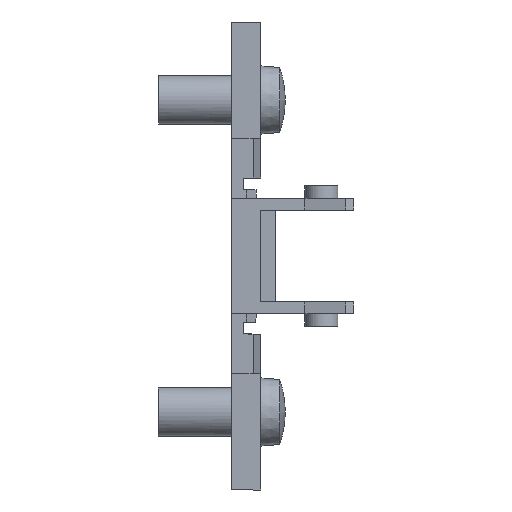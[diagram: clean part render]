
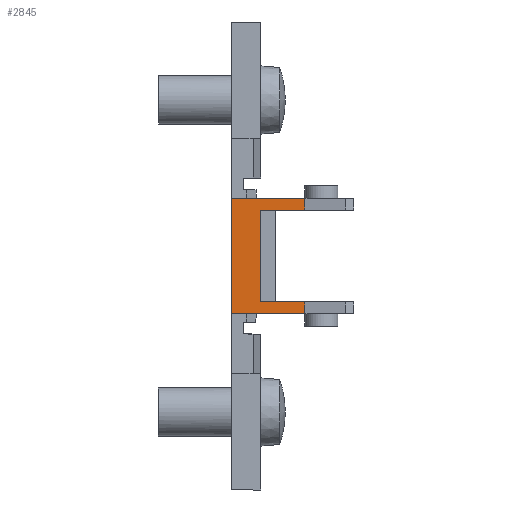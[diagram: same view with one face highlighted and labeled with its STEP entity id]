
A CAD part, front view. The second image highlights one B-rep face of the part: STEP entity #2845.
In plain terms, the highlighted planar face has unit normal (0, -1, 0).
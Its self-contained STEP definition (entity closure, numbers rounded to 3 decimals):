
#51 = EDGE_CURVE ( 'NONE', #2978, #2979, #563, .T. ) ;
#115 = AXIS2_PLACEMENT_3D ( 'NONE', #2430, #2435, #2436 ) ;
#134 = EDGE_CURVE ( 'NONE', #2980, #2979, #660, .T. ) ;
#156 = EDGE_CURVE ( 'NONE', #2974, #2980, #670, .T. ) ;
#228 = EDGE_CURVE ( 'NONE', #2973, #2974, #753, .T. ) ;
#563 = LINE ( 'NONE', #3215, #571 ) ;
#571 = VECTOR ( 'NONE', #3218, 1000. ) ;
#660 = LINE ( 'NONE', #3333, #668 ) ;
#668 = VECTOR ( 'NONE', #3336, 1000. ) ;
#670 = LINE ( 'NONE', #3351, #678 ) ;
#678 = VECTOR ( 'NONE', #3354, 1000. ) ;
#753 = LINE ( 'NONE', #3442, #754 ) ;
#754 = VECTOR ( 'NONE', #3443, 1000. ) ;
#1042 = FACE_OUTER_BOUND ( 'NONE', #2255, .T. ) ;
#1207 = LINE ( 'NONE', #4224, #1208 ) ;
#1208 = VECTOR ( 'NONE', #4225, 1000. ) ;
#1357 = VECTOR ( 'NONE', #4436, 1000. ) ;
#1373 = LINE ( 'NONE', #4435, #1357 ) ;
#1374 = LINE ( 'NONE', #4426, #1375 ) ;
#1375 = VECTOR ( 'NONE', #4427, 1000. ) ;
#1420 = VECTOR ( 'NONE', #4495, 1000. ) ;
#1422 = LINE ( 'NONE', #4494, #1420 ) ;
#1971 = ORIENTED_EDGE ( 'NONE', *, *, #134, .F. ) ;
#1972 = ORIENTED_EDGE ( 'NONE', *, *, #156, .F. ) ;
#1974 = ORIENTED_EDGE ( 'NONE', *, *, #3668, .T. ) ;
#1975 = ORIENTED_EDGE ( 'NONE', *, *, #3642, .T. ) ;
#1976 = ORIENTED_EDGE ( 'NONE', *, *, #51, .T. ) ;
#1984 = ORIENTED_EDGE ( 'NONE', *, *, #3547, .F. ) ;
#1985 = ORIENTED_EDGE ( 'NONE', *, *, #3639, .T. ) ;
#1986 = ORIENTED_EDGE ( 'NONE', *, *, #228, .F. ) ;
#2255 = EDGE_LOOP ( 'NONE', ( #1986, #1985, #1984, #1974, #1975, #1976, #1971, #1972 ) ) ;
#2427 = PLANE ( 'NONE',  #115 ) ;
#2430 = CARTESIAN_POINT ( 'NONE',  ( 12.5, -25.55, -5.9 ) ) ;
#2435 = DIRECTION ( 'NONE',  ( 0., -1., 0. ) ) ;
#2436 = DIRECTION ( 'NONE',  ( -1., 0., 0. ) ) ;
#2845 = ADVANCED_FACE ( 'NONE', ( #1042 ), #2427, .T. ) ;
#2973 = VERTEX_POINT ( 'NONE', #3908 ) ;
#2974 = VERTEX_POINT ( 'NONE', #3909 ) ;
#2975 = VERTEX_POINT ( 'NONE', #3910 ) ;
#2976 = VERTEX_POINT ( 'NONE', #3911 ) ;
#2977 = VERTEX_POINT ( 'NONE', #3912 ) ;
#2978 = VERTEX_POINT ( 'NONE', #3913 ) ;
#2979 = VERTEX_POINT ( 'NONE', #3914 ) ;
#2980 = VERTEX_POINT ( 'NONE', #3915 ) ;
#3215 = CARTESIAN_POINT ( 'NONE',  ( 1.5, -25.55, -5.9 ) ) ;
#3218 = DIRECTION ( 'NONE',  ( 1., 0., 0. ) ) ;
#3333 = CARTESIAN_POINT ( 'NONE',  ( 7.523, -25.55, 67.733 ) ) ;
#3336 = DIRECTION ( 'NONE',  ( 0., 0., -1. ) ) ;
#3351 = CARTESIAN_POINT ( 'NONE',  ( 12.5, -25.55, -4.7 ) ) ;
#3354 = DIRECTION ( 'NONE',  ( 1., 0., 0. ) ) ;
#3442 = CARTESIAN_POINT ( 'NONE',  ( 3., -25.55, -5.9 ) ) ;
#3443 = DIRECTION ( 'NONE',  ( 0., 0., -1. ) ) ;
#3547 = EDGE_CURVE ( 'NONE', #2976, #2975, #1207, .T. ) ;
#3639 = EDGE_CURVE ( 'NONE', #2973, #2975, #1374, .T. ) ;
#3642 = EDGE_CURVE ( 'NONE', #2977, #2978, #1373, .T. ) ;
#3668 = EDGE_CURVE ( 'NONE', #2976, #2977, #1422, .T. ) ;
#3908 = CARTESIAN_POINT ( 'NONE',  ( 3., -25.55, 4.7 ) ) ;
#3909 = CARTESIAN_POINT ( 'NONE',  ( 3., -25.55, -4.7 ) ) ;
#3910 = CARTESIAN_POINT ( 'NONE',  ( 7.523, -25.55, 4.7 ) ) ;
#3911 = CARTESIAN_POINT ( 'NONE',  ( 7.523, -25.55, 5.9 ) ) ;
#3912 = CARTESIAN_POINT ( 'NONE',  ( 0., -25.55, 5.9 ) ) ;
#3913 = CARTESIAN_POINT ( 'NONE',  ( 0., -25.55, -5.9 ) ) ;
#3914 = CARTESIAN_POINT ( 'NONE',  ( 7.523, -25.55, -5.9 ) ) ;
#3915 = CARTESIAN_POINT ( 'NONE',  ( 7.523, -25.55, -4.7 ) ) ;
#4224 = CARTESIAN_POINT ( 'NONE',  ( 7.523, -25.55, 67.733 ) ) ;
#4225 = DIRECTION ( 'NONE',  ( 0., 0., -1. ) ) ;
#4426 = CARTESIAN_POINT ( 'NONE',  ( 12.5, -25.55, 4.7 ) ) ;
#4427 = DIRECTION ( 'NONE',  ( 1., 0., 0. ) ) ;
#4435 = CARTESIAN_POINT ( 'NONE',  ( 0., -25.55, 15.37 ) ) ;
#4436 = DIRECTION ( 'NONE',  ( 0., 0., -1. ) ) ;
#4494 = CARTESIAN_POINT ( 'NONE',  ( 12.5, -25.55, 5.9 ) ) ;
#4495 = DIRECTION ( 'NONE',  ( -1., 0., 0. ) ) ;
